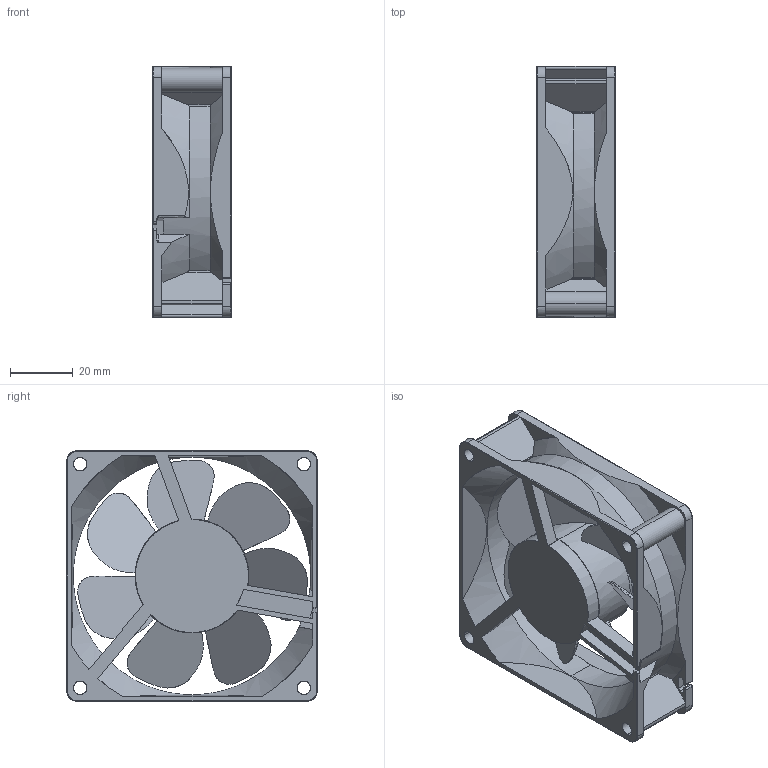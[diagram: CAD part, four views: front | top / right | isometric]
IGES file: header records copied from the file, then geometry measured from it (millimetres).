
Start section: SolidWorks IGES file using analytic representation for surfaces
Global section: file name: C:\Users\nishizawa-toshiya\Documents\My document\3D検討\提出用3Dデータ\80角25厚Rタイプ\リブ付き\8025R_RIBBED.IGS; native system: SolidWorks 2017; preprocessor: SolidWorks 2017; author: Nishizawa-Toshiya; date: 170808.170042; units: millimetre
Bounding box: 25.2 x 80.2 x 80.2 mm (x, y, z)
Surface area: 33250.2 mm2 (no closed solid volume)
Topology: 0 solids, 0 shells, 387 faces, 4395 edges, 4395 vertices
Faces by surface type: bspline 249, revolution 138
